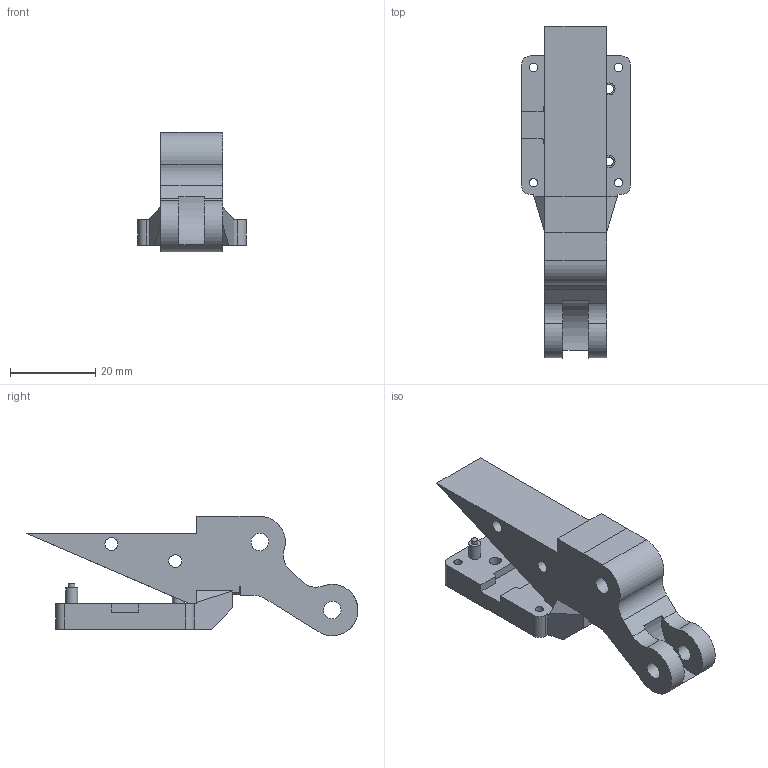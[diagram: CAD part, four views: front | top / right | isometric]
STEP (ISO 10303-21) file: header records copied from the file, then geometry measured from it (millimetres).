
FILE_DESCRIPTION (( 'STEP AP214' ), '1' );
FILE_NAME ('right-fingertip-carrier.step', '2026-11-14T03:54:29', ( '' ), ( '' ), 'SwSTEP 2.0', 'SolidWorks 2024', '' );
FILE_SCHEMA (( 'AUTOMOTIVE_DESIGN' ));
Length unit declared in the file: millimetre
Products named in the file (1): right-fingertip-carrier
Bounding box: 25.5 x 77.85 x 28.01 mm (x, y, z)
Volume: 17412.3 mm3; surface area: 8022.2 mm2
Topology: 1 solids, 1 shells, 104 faces, 275 edges, 186 vertices
Faces by surface type: plane 64, cylinder 40
Full cylindrical faces by diameter (mm): 1.45 x2, 2 x4, 2.1 x4, 2.8 x4, 2.82 x4, 3 x2, 4 x2, 4.1 x3
Entity records: 3099 total; most frequent: CARTESIAN_POINT 529, DIRECTION 526, ORIENTED_EDGE 476, EDGE_CURVE 238, AXIS2_PLACEMENT_3D 185, VERTEX_POINT 174, EDGE_LOOP 172, VECTOR 156
